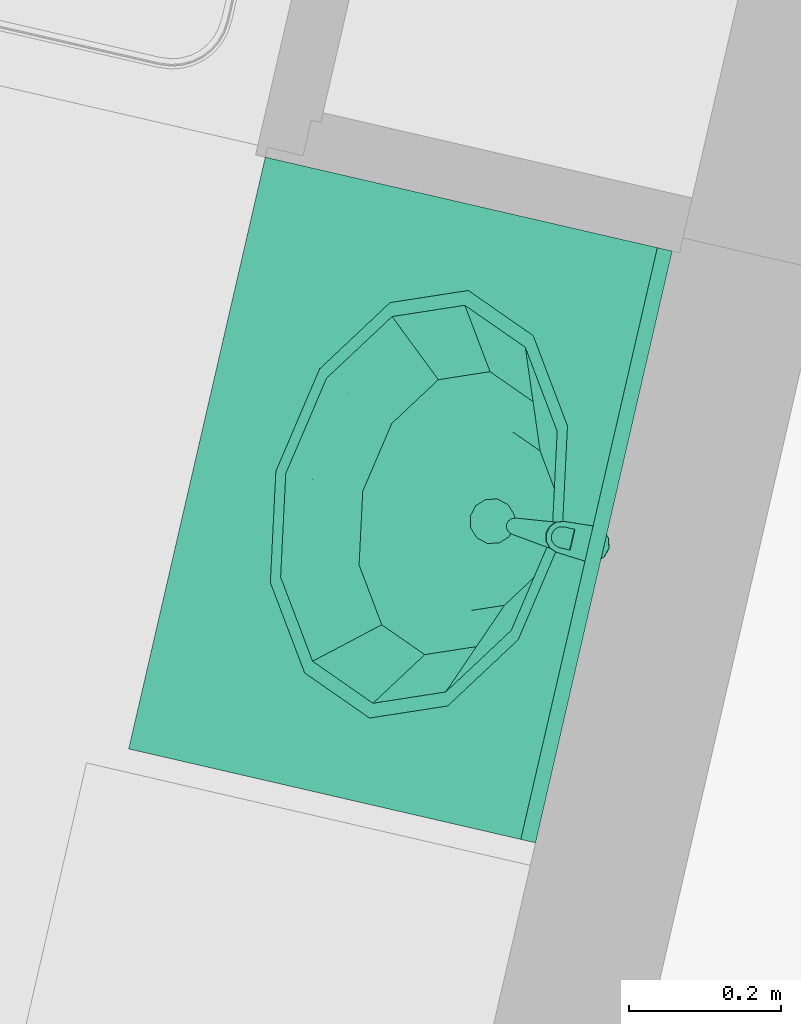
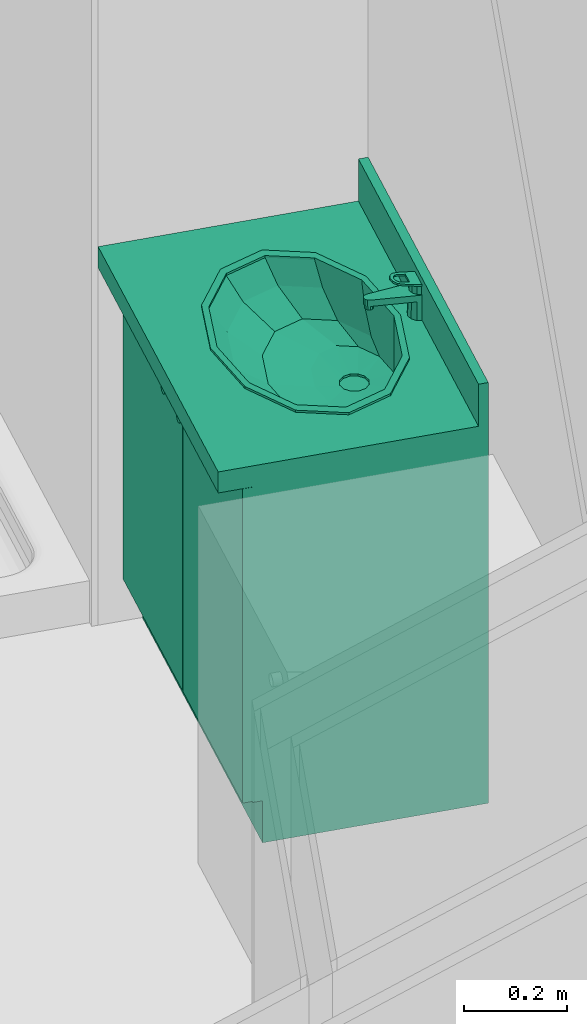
# One storey, part 46 of 62: 2 flow terminals.
"""IFC2X3 building model written with IfcOpenShell, lengths in metres."""

from ifc_helpers import new_model, entity, si_unit, converted_unit, derived_unit, money_unit, direction, frame, origin_with_axes, place, context, subcontext, project, spatial, open_shell, faceted_brep, surface_model, source, transform, mapped, type_object, element, save


model = new_model("IFC2X3")

# Units and contexts
model_context = context("Model", 3, precision=1e-05, world=origin_with_axes(), true_north=direction((0.0, 1.0)))
body_context = subcontext(model_context, "Body", "Model", "MODEL_VIEW")
ifc_project = project(units=[si_unit("LENGTHUNIT", "METRE"), si_unit("AREAUNIT", "SQUARE_METRE"), si_unit("VOLUMEUNIT", "CUBIC_METRE"), converted_unit("PLANEANGLEUNIT", "DEGREE", entity("IfcPlaneAngleMeasure", 0.0174532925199), si_unit("PLANEANGLEUNIT", "RADIAN"), dimensions=[0, 0, 0, 0, 0, 0, 0]), si_unit("SOLIDANGLEUNIT", "STERADIAN"), money_unit("EUR"), converted_unit("TIMEUNIT", "Year", entity("IfcTimeMeasure", 31556926.0), si_unit("TIMEUNIT", "SECOND"), dimensions=[0, 0, 1, 0, 0, 0, 0]), si_unit("MASSUNIT", "GRAM", prefix="KILO"), si_unit("THERMODYNAMICTEMPERATUREUNIT", "DEGREE_CELSIUS"), si_unit("LUMINOUSINTENSITYUNIT", "LUMEN"), si_unit("ENERGYUNIT", "JOULE", prefix="MEGA"), derived_unit("THERMALCONDUCTANCEUNIT", [(si_unit("POWERUNIT", "WATT"), 1), (si_unit("LENGTHUNIT", "METRE"), -1), (si_unit("THERMODYNAMICTEMPERATUREUNIT", "KELVIN"), -1)]), derived_unit("SPECIFICHEATCAPACITYUNIT", [(si_unit("ENERGYUNIT", "JOULE"), 1), (si_unit("MASSUNIT", "GRAM", prefix="KILO"), -1), (si_unit("THERMODYNAMICTEMPERATUREUNIT", "KELVIN"), -1)]), derived_unit("MASSDENSITYUNIT", [(si_unit("MASSUNIT", "GRAM", prefix="KILO"), 1), (si_unit("VOLUMEUNIT", "CUBIC_METRE"), -1)])], contexts=[model_context])

# Site, building, storey
site_placement = place(None, origin_with_axes())
site = spatial("IfcSite", under=ifc_project, at=site_placement, Name="Site", CompositionType="ELEMENT")
building_placement = place(site_placement, origin_with_axes())
building = spatial("IfcBuilding", under=site, at=building_placement, Name="Bâtiment", CompositionType="ELEMENT")
storey_placement = place(building_placement, frame((0.0, 0.0, 8.16), z_axis=(0.0, 0.0, 1.0), x_axis=(1.0, 0.0, 0.0)))
storey = spatial("IfcBuildingStorey", under=building, at=storey_placement, Name="R+3", CompositionType="ELEMENT", Elevation=8.16)

# Flow terminals
sanitary_terminal_type = type_object("IfcSanitaryTerminalType", Name="Lavabo sur meuble 23", PredefinedType="NOTDEFINED")
shared_shape = source(origin_with_axes(), body_context, "Body", "SurfaceModel", [
    faceted_brep([(0.0, 0.09, 0.0), (0.0, 0.09, 0.1), (-0.8, 0.09, 0.1), (-0.8, 0.09, 0.0), (0.0, 0.55, 0.0), (0.0, 0.55, 0.1), (-0.8, 0.55, 0.1), (-0.8, 0.55, 0.0)], [[[0, 1, 2, 3]], [[4, 5, 1, 0]], [[1, 5, 6, 2]], [[3, 2, 6, 7]], [[0, 3, 7, 4]], [[7, 6, 5, 4]]]),
    faceted_brep([(0.0, 0.07, 0.1), (0.0, 0.07, 0.12), (-0.02, 0.07, 0.12), (-0.02, 0.07, 0.1), (0.0, 0.55, 0.1), (0.0, 0.55, 0.12), (-0.02, 0.55, 0.12), (-0.78, 0.55, 0.12), (-0.8, 0.55, 0.12), (-0.8, 0.07, 0.12), (-0.78, 0.07, 0.12), (-0.78, 0.07, 0.1), (-0.8, 0.07, 0.1), (-0.8, 0.55, 0.1), (-0.78, 0.55, 0.1), (-0.02, 0.55, 0.1)], [[[0, 1, 2, 3]], [[4, 5, 1, 0]], [[1, 5, 6, 7, 8, 9, 10, 2]], [[3, 2, 10, 11]], [[0, 3, 11, 12, 13, 14, 15, 4]], [[15, 6, 5, 4]], [[14, 7, 6, 15]], [[13, 8, 7, 14]], [[12, 9, 8, 13]], [[11, 10, 9, 12]]]),
    faceted_brep([(0.0, 0.07, 0.12), (0.0, 0.07, 0.85), (-0.02, 0.07, 0.85), (-0.02, 0.07, 0.12), (0.0, 0.55, 0.12), (0.0, 0.55, 0.85), (-0.8, 0.55, 0.85), (-0.8, 0.07, 0.85), (-0.78, 0.07, 0.85), (-0.78, 0.53, 0.85), (-0.02, 0.53, 0.85), (-0.02, 0.53, 0.12), (-0.78, 0.53, 0.12), (-0.78, 0.07, 0.12), (-0.8, 0.07, 0.12), (-0.8, 0.55, 0.12)], [[[0, 1, 2, 3]], [[4, 5, 1, 0]], [[1, 5, 6, 7, 8, 9, 10, 2]], [[3, 2, 10, 11]], [[0, 3, 11, 12, 13, 14, 15, 4]], [[15, 6, 5, 4]], [[14, 7, 6, 15]], [[13, 8, 7, 14]], [[12, 9, 8, 13]], [[11, 10, 9, 12]]]),
    faceted_brep([(-0.78, 0.07, 0.323333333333), (-0.78, 0.07, 0.343333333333), (-0.78, 0.53, 0.343333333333), (-0.78, 0.53, 0.323333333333), (-0.02, 0.07, 0.323333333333), (-0.02, 0.07, 0.343333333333), (-0.02, 0.53, 0.343333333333), (-0.02, 0.53, 0.323333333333)], [[[0, 1, 2, 3]], [[4, 5, 1, 0]], [[1, 5, 6, 2]], [[3, 2, 6, 7]], [[0, 3, 7, 4]], [[7, 6, 5, 4]]]),
    faceted_brep([(-0.78, 0.07, 0.566666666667), (-0.78, 0.07, 0.586666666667), (-0.78, 0.53, 0.586666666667), (-0.78, 0.53, 0.566666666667), (-0.02, 0.07, 0.566666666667), (-0.02, 0.07, 0.586666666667), (-0.02, 0.53, 0.586666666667), (-0.02, 0.53, 0.566666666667)], [[[0, 1, 2, 3]], [[4, 5, 1, 0]], [[1, 5, 6, 2]], [[3, 2, 6, 7]], [[0, 3, 7, 4]], [[7, 6, 5, 4]]]),
    faceted_brep([(0.0, 0.55, 0.85), (0.0, 0.0, 0.85), (-0.8, 0.0, 0.85), (-0.8, 0.55, 0.85), (-0.535, 0.144115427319, 0.85), (-0.4, 0.12, 0.85), (-0.265, 0.144115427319, 0.85), (-0.166173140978, 0.21, 0.85), (-0.13, 0.3, 0.85), (-0.166173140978, 0.39, 0.85), (-0.265, 0.455884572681, 0.85), (-0.4, 0.48, 0.85), (-0.535, 0.455884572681, 0.85), (-0.633826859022, 0.39, 0.85), (-0.67, 0.3, 0.85), (-0.633826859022, 0.21, 0.85), (0.0, 0.55, 0.9), (0.0, 0.0, 0.9), (-0.8, 0.0, 0.9), (-0.8, 0.55, 0.9), (-0.4, 0.12, 0.9), (-0.535, 0.144115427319, 0.9), (-0.265, 0.144115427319, 0.9), (-0.166173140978, 0.21, 0.9), (-0.13, 0.3, 0.9), (-0.166173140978, 0.39, 0.9), (-0.265, 0.455884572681, 0.9), (-0.4, 0.48, 0.9), (-0.535, 0.455884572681, 0.9), (-0.633826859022, 0.39, 0.9), (-0.67, 0.3, 0.9), (-0.633826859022, 0.21, 0.9)], [[[0, 1, 2, 3], [4, 5, 6, 7, 8, 9, 10, 11, 12, 13, 14, 15]], [[1, 0, 16, 17]], [[2, 1, 17, 18]], [[3, 2, 18, 19]], [[0, 3, 19, 16]], [[20, 5, 4, 21]], [[22, 6, 5, 20]], [[23, 7, 6, 22]], [[24, 8, 7, 23]], [[25, 9, 8, 24]], [[26, 10, 9, 25]], [[27, 11, 10, 26]], [[28, 12, 11, 27]], [[29, 13, 12, 28]], [[30, 14, 13, 29]], [[31, 15, 14, 30]], [[21, 4, 15, 31]], [[18, 17, 16, 19], [28, 27, 26, 25, 24, 23, 22, 20, 21, 31, 30, 29]]]),
    faceted_brep([(0.0, 0.53, 0.9), (0.0, 0.53, 1.0), (-0.8, 0.53, 1.0), (-0.8, 0.53, 0.9), (0.0, 0.55, 0.9), (0.0, 0.55, 1.0), (-0.8, 0.55, 1.0), (-0.8, 0.55, 0.9)], [[[0, 1, 2, 3]], [[4, 5, 1, 0]], [[1, 5, 6, 2]], [[3, 2, 6, 7]], [[0, 3, 7, 4]], [[7, 6, 5, 4]]]),
    faceted_brep([(-0.689, 0.3, 0.905), (-0.650281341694, 0.396691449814, 0.905), (-0.650281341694, 0.396691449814, 0.9), (-0.689, 0.3, 0.9), (-0.650281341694, 0.203308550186, 0.905), (-0.5445, 0.132525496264, 0.905), (-0.4, 0.106617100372, 0.905), (-0.2555, 0.132525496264, 0.905), (-0.149718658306, 0.203308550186, 0.905), (-0.111, 0.3, 0.905), (-0.149718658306, 0.396691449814, 0.905), (-0.2555, 0.467474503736, 0.905), (-0.4, 0.493382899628, 0.905), (-0.5445, 0.467474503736, 0.905), (-0.669, 0.3, 0.905), (-0.632960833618, 0.39, 0.905), (-0.5345, 0.455884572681, 0.905), (-0.4, 0.48, 0.905), (-0.2655, 0.455884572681, 0.905), (-0.167039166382, 0.39, 0.905), (-0.131, 0.3, 0.905), (-0.167039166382, 0.21, 0.905), (-0.2655, 0.144115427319, 0.905), (-0.4, 0.12, 0.905), (-0.5345, 0.144115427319, 0.905), (-0.632960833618, 0.21, 0.905), (-0.5445, 0.467474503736, 0.9), (-0.4, 0.493382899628, 0.9), (-0.2555, 0.467474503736, 0.9), (-0.149718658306, 0.396691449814, 0.9), (-0.111, 0.3, 0.9), (-0.149718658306, 0.203308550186, 0.9), (-0.2555, 0.132525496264, 0.9), (-0.4, 0.106617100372, 0.9), (-0.5445, 0.132525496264, 0.9), (-0.650281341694, 0.203308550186, 0.9), (-0.669, 0.3, 0.9), (-0.632960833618, 0.21, 0.9), (-0.5345, 0.144115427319, 0.9), (-0.4, 0.12, 0.9), (-0.2655, 0.144115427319, 0.9), (-0.167039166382, 0.21, 0.9), (-0.131, 0.3, 0.9), (-0.167039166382, 0.39, 0.9), (-0.2655, 0.455884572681, 0.9), (-0.4, 0.48, 0.9), (-0.5345, 0.455884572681, 0.9), (-0.632960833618, 0.39, 0.9)], [[[0, 1, 2, 3]], [[0, 4, 5, 6, 7, 8, 9, 10, 11, 12, 13, 1], [14, 15, 16, 17, 18, 19, 20, 21, 22, 23, 24, 25]], [[1, 13, 26, 2]], [[3, 2, 26, 27, 28, 29, 30, 31, 32, 33, 34, 35], [36, 37, 38, 39, 40, 41, 42, 43, 44, 45, 46, 47]], [[4, 0, 3, 35]], [[5, 4, 35, 34]], [[6, 5, 34, 33]], [[7, 6, 33, 32]], [[8, 7, 32, 31]], [[9, 8, 31, 30]], [[10, 9, 30, 29]], [[11, 10, 29, 28]], [[12, 11, 28, 27]], [[13, 12, 27, 26]], [[15, 14, 36, 47]], [[16, 15, 47, 46]], [[17, 16, 46, 45]], [[18, 17, 45, 44]], [[19, 18, 44, 43]], [[20, 19, 43, 42]], [[21, 20, 42, 41]], [[22, 21, 41, 40]], [[23, 22, 40, 39]], [[24, 23, 39, 38]], [[25, 24, 38, 37]], [[14, 25, 37, 36]]]),
    surface_model("IfcShellBasedSurfaceModel", [(-0.4, 0.48, 0.9), (-0.5345, 0.455884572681, 0.9), (-0.52105, 0.458296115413, 0.848), (-0.4, 0.48, 0.848), (-0.632960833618, 0.39, 0.9), (-0.609664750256, 0.399, 0.848), (-0.2655, 0.455884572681, 0.9), (-0.27895, 0.458296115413, 0.848), (-0.669, 0.3, 0.9), (-0.6421, 0.318, 0.848), (-0.167039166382, 0.39, 0.9), (-0.190335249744, 0.399, 0.848), (-0.632960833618, 0.21, 0.9), (-0.609664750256, 0.237, 0.848), (-0.131, 0.3, 0.9), (-0.1579, 0.318, 0.848), (-0.5345, 0.144115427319, 0.9), (-0.52105, 0.177703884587, 0.848), (-0.167039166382, 0.21, 0.9), (-0.190335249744, 0.237, 0.848), (-0.4, 0.12, 0.9), (-0.4, 0.156, 0.848), (-0.2655, 0.144115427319, 0.9), (-0.27895, 0.177703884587, 0.848)], [open_shell([[[0, 1, 2, 3]], [[1, 4, 5, 2]], [[6, 0, 3, 7]], [[4, 8, 9, 5]], [[10, 6, 7, 11]], [[8, 12, 13, 9]], [[14, 10, 11, 15]], [[12, 16, 17, 13]], [[18, 14, 15, 19]], [[16, 20, 21, 17]], [[22, 18, 19, 23]], [[20, 22, 23, 21]]])]),
    surface_model("IfcShellBasedSurfaceModel", [(-0.4, 0.48, 0.848), (-0.52105, 0.458296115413, 0.848), (-0.4956295, 0.462853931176, 0.796), (-0.4, 0.48, 0.796), (-0.609664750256, 0.399, 0.848), (-0.565635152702, 0.41601, 0.796), (-0.27895, 0.458296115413, 0.848), (-0.3043705, 0.462853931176, 0.796), (-0.6421, 0.318, 0.848), (-0.591259, 0.35202, 0.796), (-0.190335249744, 0.399, 0.848), (-0.234364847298, 0.41601, 0.796), (-0.609664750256, 0.237, 0.848), (-0.565635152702, 0.28803, 0.796), (-0.1579, 0.318, 0.848), (-0.208741, 0.35202, 0.796), (-0.52105, 0.177703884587, 0.848), (-0.4956295, 0.241186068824, 0.796), (-0.190335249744, 0.237, 0.848), (-0.234364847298, 0.28803, 0.796), (-0.4, 0.156, 0.848), (-0.4, 0.22404, 0.796), (-0.27895, 0.177703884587, 0.848), (-0.3043705, 0.241186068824, 0.796)], [open_shell([[[0, 1, 2, 3]], [[1, 4, 5, 2]], [[6, 0, 3, 7]], [[4, 8, 9, 5]], [[10, 6, 7, 11]], [[8, 12, 13, 9]], [[14, 10, 11, 15]], [[12, 16, 17, 13]], [[18, 14, 15, 19]], [[16, 20, 21, 17]], [[22, 18, 19, 23]], [[20, 22, 23, 21]]])]),
    surface_model("IfcShellBasedSurfaceModel", [(-0.4, 0.48, 0.796), (-0.4956295, 0.462853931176, 0.796), (-0.460246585, 0.469197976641, 0.77), (-0.4, 0.48, 0.77), (-0.565635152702, 0.41601, 0.796), (-0.504350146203, 0.4396863, 0.77), (-0.3043705, 0.462853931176, 0.796), (-0.339753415, 0.469197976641, 0.77), (-0.591259, 0.35202, 0.796), (-0.52049317, 0.3993726, 0.77), (-0.234364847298, 0.41601, 0.796), (-0.295649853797, 0.4396863, 0.77), (-0.565635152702, 0.28803, 0.796), (-0.504350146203, 0.3590589, 0.77), (-0.208741, 0.35202, 0.796), (-0.27950683, 0.3993726, 0.77), (-0.4956295, 0.241186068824, 0.796), (-0.460246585, 0.329547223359, 0.77), (-0.234364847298, 0.28803, 0.796), (-0.295649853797, 0.3590589, 0.77), (-0.4, 0.22404, 0.796), (-0.4, 0.3187452, 0.77), (-0.3043705, 0.241186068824, 0.796), (-0.339753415, 0.329547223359, 0.77)], [open_shell([[[0, 1, 2, 3]], [[1, 4, 5, 2]], [[6, 0, 3, 7]], [[4, 8, 9, 5]], [[10, 6, 7, 11]], [[8, 12, 13, 9]], [[14, 10, 11, 15]], [[12, 16, 17, 13]], [[18, 14, 15, 19]], [[16, 20, 21, 17]], [[22, 18, 19, 23]], [[20, 22, 23, 21]]])]),
    surface_model("IfcShellBasedSurfaceModel", [(-0.4, 0.48, 0.77), (-0.460246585, 0.469197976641, 0.77), (-0.415, 0.425353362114, 0.763), (-0.425980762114, 0.4143726, 0.763), (-0.4, 0.4293726, 0.763), (-0.504350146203, 0.4396863, 0.77), (-0.339753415, 0.469197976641, 0.77), (-0.43, 0.3993726, 0.763), (-0.385, 0.425353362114, 0.763), (-0.52049317, 0.3993726, 0.77), (-0.295649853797, 0.4396863, 0.77), (-0.425980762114, 0.3843726, 0.763), (-0.374019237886, 0.4143726, 0.763), (-0.504350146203, 0.3590589, 0.77), (-0.27950683, 0.3993726, 0.77), (-0.415, 0.373391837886, 0.763), (-0.37, 0.3993726, 0.763), (-0.460246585, 0.329547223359, 0.77), (-0.295649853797, 0.3590589, 0.77), (-0.4, 0.3693726, 0.763), (-0.374019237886, 0.3843726, 0.763), (-0.4, 0.3187452, 0.77), (-0.339753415, 0.329547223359, 0.77), (-0.385, 0.373391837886, 0.763)], [open_shell([[[0, 1, 2]], [[1, 3, 2]], [[0, 2, 4]], [[1, 5, 3]], [[6, 0, 4]], [[5, 7, 3]], [[6, 4, 8]], [[5, 9, 7]], [[10, 6, 8]], [[9, 11, 7]], [[10, 8, 12]], [[9, 13, 11]], [[14, 10, 12]], [[13, 15, 11]], [[14, 12, 16]], [[13, 17, 15]], [[18, 14, 16]], [[17, 19, 15]], [[18, 16, 20]], [[17, 21, 19]], [[22, 18, 20]], [[21, 23, 19]], [[22, 20, 23]], [[21, 22, 23]]])]),
    surface_model("IfcShellBasedSurfaceModel", [(-0.43, 0.3993726, 0.763), (-0.425980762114, 0.4143726, 0.763), (-0.425980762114, 0.4143726, 0.758), (-0.43, 0.3993726, 0.758), (-0.415, 0.425353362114, 0.763), (-0.415, 0.425353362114, 0.758), (-0.4, 0.4293726, 0.758), (-0.385, 0.425353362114, 0.758), (-0.374019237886, 0.4143726, 0.758), (-0.37, 0.3993726, 0.758), (-0.374019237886, 0.3843726, 0.758), (-0.385, 0.373391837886, 0.758), (-0.4, 0.3693726, 0.758), (-0.415, 0.373391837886, 0.758), (-0.425980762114, 0.3843726, 0.758), (-0.425980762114, 0.3843726, 0.763), (-0.4, 0.4293726, 0.763), (-0.385, 0.425353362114, 0.763), (-0.374019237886, 0.4143726, 0.763), (-0.37, 0.3993726, 0.763), (-0.374019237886, 0.3843726, 0.763), (-0.385, 0.373391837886, 0.763), (-0.4, 0.3693726, 0.763), (-0.415, 0.373391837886, 0.763)], [open_shell([[[0, 1, 2, 3]], [[1, 4, 5, 2]], [[3, 2, 5, 6, 7, 8, 9, 10, 11, 12, 13, 14]], [[15, 0, 3, 14]], [[4, 16, 6, 5]], [[16, 17, 7, 6]], [[17, 18, 8, 7]], [[18, 19, 9, 8]], [[19, 20, 10, 9]], [[20, 21, 11, 10]], [[21, 22, 12, 11]], [[22, 23, 13, 12]], [[23, 15, 14, 13]]])]),
    faceted_brep([(-0.4125, 0.554150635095, 0.9), (-0.410587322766, 0.550837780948, 0.976507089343), (-0.4, 0.553701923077, 0.975961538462), (-0.4, 0.5575, 0.9), (-0.421650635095, 0.545, 0.9), (-0.418273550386, 0.543050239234, 0.977990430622), (-0.421, 0.5325, 0.98), (-0.418100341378, 0.522049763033, 0.981990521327), (-0.410414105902, 0.514462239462, 0.983435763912), (-0.4, 0.511698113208, 0.983962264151), (-0.389585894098, 0.514462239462, 0.983435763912), (-0.381899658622, 0.522049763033, 0.981990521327), (-0.379, 0.5325, 0.98), (-0.381726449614, 0.543050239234, 0.977990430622), (-0.389412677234, 0.550837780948, 0.976507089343), (-0.3875, 0.554150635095, 0.9), (-0.378349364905, 0.545, 0.9), (-0.375, 0.5325, 0.9), (-0.378349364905, 0.52, 0.9), (-0.3875, 0.510849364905, 0.9), (-0.4, 0.5075, 0.9), (-0.4125, 0.510849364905, 0.9), (-0.421650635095, 0.52, 0.9), (-0.425, 0.5325, 0.9)], [[[0, 1, 2, 3]], [[4, 5, 1, 0]], [[1, 5, 6, 7, 8, 9, 10, 11, 12, 13, 14, 2]], [[3, 2, 14, 15]], [[0, 3, 15, 16, 17, 18, 19, 20, 21, 22, 23, 4]], [[23, 6, 5, 4]], [[22, 7, 6, 23]], [[21, 8, 7, 22]], [[20, 9, 8, 21]], [[19, 10, 9, 20]], [[18, 11, 10, 19]], [[17, 12, 11, 18]], [[16, 13, 12, 17]], [[15, 14, 13, 16]]]),
    faceted_brep([(-0.409, 0.4295, 0.935), (-0.409, 0.4295, 0.945), (-0.407794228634, 0.434, 0.945), (-0.407794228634, 0.434, 0.935), (-0.407794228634, 0.425, 0.935), (-0.407794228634, 0.425, 0.945), (-0.4045, 0.421705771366, 0.945), (-0.4, 0.4205, 0.945), (-0.3955, 0.421705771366, 0.945), (-0.392205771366, 0.425, 0.945), (-0.391, 0.4295, 0.945), (-0.392205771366, 0.434, 0.945), (-0.3955, 0.437294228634, 0.945), (-0.4, 0.4385, 0.945), (-0.4045, 0.437294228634, 0.945), (-0.4045, 0.437294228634, 0.935), (-0.4, 0.4385, 0.935), (-0.3955, 0.437294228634, 0.935), (-0.392205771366, 0.434, 0.935), (-0.391, 0.4295, 0.935), (-0.392205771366, 0.425, 0.935), (-0.3955, 0.421705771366, 0.935), (-0.4, 0.4205, 0.935), (-0.4045, 0.421705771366, 0.935)], [[[0, 1, 2, 3]], [[4, 5, 1, 0]], [[1, 5, 6, 7, 8, 9, 10, 11, 12, 13, 14, 2]], [[3, 2, 14, 15]], [[0, 3, 15, 16, 17, 18, 19, 20, 21, 22, 23, 4]], [[23, 6, 5, 4]], [[22, 7, 6, 23]], [[21, 8, 7, 22]], [[20, 9, 8, 21]], [[19, 10, 9, 20]], [[18, 11, 10, 19]], [[17, 12, 11, 18]], [[16, 13, 12, 17]], [[15, 14, 13, 16]]]),
    faceted_brep([(-0.387128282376, 0.552756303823, 0.96), (-0.40000000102, 0.556499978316, 0.96), (-0.412871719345, 0.552756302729, 0.96), (-0.421727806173, 0.542693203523, 0.96), (-0.423805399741, 0.529450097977, 0.96), (-0.410912, 0.4281117, 0.96), (-0.409028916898, 0.423216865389, 0.96), (-0.405093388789, 0.419750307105, 0.96), (-0.400000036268, 0.41850003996, 0.96), (-0.394906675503, 0.419750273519, 0.96), (-0.390971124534, 0.423216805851, 0.96), (-0.389088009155, 0.428111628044, 0.96), (-0.3761946, 0.5294501, 0.96), (-0.378272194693, 0.54269320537, 0.96), (-0.411, 0.551552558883, 0.96), (-0.4, 0.5545, 0.96), (-0.389, 0.551552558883, 0.96), (-0.380947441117, 0.5435, 0.96), (-0.378, 0.5325, 0.96), (-0.380947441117, 0.5215, 0.96), (-0.389, 0.513447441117, 0.96), (-0.4, 0.5105, 0.96), (-0.411, 0.513447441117, 0.96), (-0.419052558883, 0.5215, 0.96), (-0.422, 0.5325, 0.96), (-0.419052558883, 0.5435, 0.96), (-0.387128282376, 0.552756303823, 0.945), (-0.40000000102, 0.556499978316, 0.945), (-0.412871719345, 0.552756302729, 0.945), (-0.421727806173, 0.542693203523, 0.945), (-0.423805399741, 0.529450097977, 0.945), (-0.410912, 0.4281117, 0.945), (-0.409028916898, 0.423216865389, 0.945), (-0.405093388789, 0.419750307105, 0.945), (-0.400000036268, 0.41850003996, 0.945), (-0.394906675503, 0.419750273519, 0.945), (-0.390971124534, 0.423216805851, 0.945), (-0.389088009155, 0.428111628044, 0.945), (-0.3761946, 0.5294501, 0.945), (-0.378272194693, 0.54269320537, 0.945), (-0.4, 0.55525, 0.945), (-0.411375, 0.552202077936, 0.945), (-0.388625, 0.552202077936, 0.945), (-0.380297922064, 0.543875, 0.945), (-0.37725, 0.5325, 0.945), (-0.380297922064, 0.521125, 0.945), (-0.388625, 0.512797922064, 0.945), (-0.4, 0.50975, 0.945), (-0.411375, 0.512797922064, 0.945), (-0.419702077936, 0.521125, 0.945), (-0.42275, 0.5325, 0.945), (-0.419702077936, 0.543875, 0.945)], [[[0, 1, 2, 3, 4, 5, 6, 7, 8, 9, 10, 11, 12, 13], [14, 15, 16, 17, 18, 19, 20, 21, 22, 23, 24, 25]], [[26, 27, 1, 0]], [[27, 28, 2, 1]], [[28, 29, 3, 2]], [[29, 30, 4, 3]], [[30, 31, 5, 4]], [[31, 32, 6, 5]], [[32, 33, 7, 6]], [[33, 34, 8, 7]], [[34, 35, 9, 8]], [[35, 36, 10, 9]], [[36, 37, 11, 10]], [[37, 38, 12, 11]], [[38, 39, 13, 12]], [[39, 26, 0, 13]], [[40, 15, 14, 41]], [[42, 16, 15, 40]], [[16, 42, 43, 17]], [[17, 43, 44, 18]], [[18, 44, 45, 19]], [[19, 45, 46, 20]], [[20, 46, 47, 21]], [[48, 22, 21, 47]], [[49, 23, 22, 48]], [[50, 24, 23, 49]], [[51, 25, 24, 50]], [[41, 14, 25, 51]], [[34, 33, 32, 31, 30, 29, 28, 27, 26, 39, 38, 37, 36, 35], [48, 47, 46, 45, 44, 43, 42, 40, 41, 51, 50, 49]]]),
    faceted_brep([(-0.423893, 0.53080743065, 0.980322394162), (-0.423893, 0.531555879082, 0.984251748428), (-0.421296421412, 0.544023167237, 0.981877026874), (-0.421296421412, 0.543274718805, 0.977947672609), (-0.420945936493, 0.490663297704, 0.987968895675), (-0.420945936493, 0.491411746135, 0.991898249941), (-0.417663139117, 0.48173408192, 0.993741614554), (-0.410061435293, 0.47478470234, 0.995065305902), (-0.399999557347, 0.472262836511, 0.995545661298), (-0.389937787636, 0.474785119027, 0.995065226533), (-0.382336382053, 0.481734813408, 0.993741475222), (-0.379054, 0.491412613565, 0.991898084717), (-0.376106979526, 0.531556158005, 0.984251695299), (-0.378703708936, 0.544023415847, 0.98187697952), (-0.38752831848, 0.553339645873, 0.980102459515), (-0.400000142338, 0.556780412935, 0.979447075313), (-0.41247192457, 0.553339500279, 0.980102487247), (-0.414, 0.507707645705, 0.988794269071), (-0.386, 0.507707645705, 0.988794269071), (-0.386, 0.492892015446, 0.991616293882), (-0.387875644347, 0.486015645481, 0.992926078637), (-0.393, 0.480981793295, 0.993884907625), (-0.4, 0.479139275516, 0.994235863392), (-0.407, 0.480981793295, 0.993884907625), (-0.412124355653, 0.486015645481, 0.992926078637), (-0.414, 0.492892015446, 0.991616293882), (-0.41247192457, 0.552591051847, 0.976173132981), (-0.400000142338, 0.556031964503, 0.975517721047), (-0.38752831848, 0.552591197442, 0.976173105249), (-0.378703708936, 0.543274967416, 0.977947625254), (-0.376106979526, 0.530807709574, 0.980322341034), (-0.379054, 0.490664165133, 0.987968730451), (-0.382336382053, 0.480986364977, 0.989812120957), (-0.389937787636, 0.474036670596, 0.991135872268), (-0.399999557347, 0.47151438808, 0.991616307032), (-0.410061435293, 0.474036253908, 0.991135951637), (-0.417663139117, 0.480985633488, 0.989812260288), (-0.414, 0.506959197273, 0.984864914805), (-0.414, 0.492143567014, 0.987686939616), (-0.412124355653, 0.485267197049, 0.988996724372), (-0.407, 0.480233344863, 0.989955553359), (-0.4, 0.478390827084, 0.990306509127), (-0.393, 0.480233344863, 0.989955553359), (-0.387875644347, 0.485267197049, 0.988996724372), (-0.386, 0.492143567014, 0.987686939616), (-0.386, 0.506959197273, 0.984864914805)], [[[0, 1, 2, 3]], [[4, 5, 1, 0]], [[1, 5, 6, 7, 8, 9, 10, 11, 12, 13, 14, 15, 16, 2], [17, 18, 19, 20, 21, 22, 23, 24, 25]], [[3, 2, 16, 26]], [[0, 3, 26, 27, 28, 29, 30, 31, 32, 33, 34, 35, 36, 4], [37, 38, 39, 40, 41, 42, 43, 44, 45]], [[36, 6, 5, 4]], [[35, 7, 6, 36]], [[34, 8, 7, 35]], [[33, 9, 8, 34]], [[32, 10, 9, 33]], [[31, 11, 10, 32]], [[30, 12, 11, 31]], [[29, 13, 12, 30]], [[28, 14, 13, 29]], [[27, 15, 14, 28]], [[26, 16, 15, 27]], [[45, 18, 17, 37]], [[44, 19, 18, 45]], [[43, 20, 19, 44]], [[42, 21, 20, 43]], [[41, 22, 21, 42]], [[40, 23, 22, 41]], [[39, 24, 23, 40]], [[38, 25, 24, 39]], [[37, 17, 25, 38]]]),
    faceted_brep([(-0.0015, 0.07, 0.1015), (-0.0015, 0.05, 0.1015), (-0.3985, 0.05, 0.1015), (-0.3985, 0.07, 0.1015), (-0.0015, 0.07, 0.8485), (-0.0015, 0.05, 0.8485), (-0.3985, 0.05, 0.8485), (-0.3985, 0.07, 0.8485)], [[[0, 1, 2, 3]], [[4, 5, 1, 0]], [[1, 5, 6, 2]], [[3, 2, 6, 7]], [[0, 3, 7, 4]], [[7, 6, 5, 4]]]),
    faceted_brep([(-0.358892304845, 0.05, 0.7855), (-0.3605, 0.05, 0.7915), (-0.358892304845, 0.05, 0.7975), (-0.3545, 0.05, 0.801892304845), (-0.3485, 0.05, 0.8035), (-0.3425, 0.05, 0.801892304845), (-0.338107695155, 0.05, 0.7975), (-0.3365, 0.05, 0.7915), (-0.338107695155, 0.05, 0.7855), (-0.3425, 0.05, 0.781107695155), (-0.3485, 0.05, 0.7795), (-0.3545, 0.05, 0.781107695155), (-0.358892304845, 0.025, 0.7855), (-0.3605, 0.025, 0.7915), (-0.358892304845, 0.025, 0.7975), (-0.3545, 0.025, 0.801892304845), (-0.3485, 0.025, 0.8035), (-0.3425, 0.025, 0.801892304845), (-0.338107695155, 0.025, 0.7975), (-0.3365, 0.025, 0.7915), (-0.338107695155, 0.025, 0.7855), (-0.3425, 0.025, 0.781107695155), (-0.3485, 0.025, 0.7795), (-0.3545, 0.025, 0.781107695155)], [[[0, 1, 2, 3, 4, 5, 6, 7, 8, 9, 10, 11]], [[0, 12, 13, 1]], [[1, 13, 14, 2]], [[2, 14, 15, 3]], [[3, 15, 16, 4]], [[4, 16, 17, 5]], [[5, 17, 18, 6]], [[6, 18, 19, 7]], [[7, 19, 20, 8]], [[8, 20, 21, 9]], [[9, 21, 22, 10]], [[10, 22, 23, 11]], [[11, 23, 12, 0]], [[12, 23, 22, 21, 20, 19, 18, 17, 16, 15, 14, 13]]]),
    faceted_brep([(-0.7985, 0.07, 0.1015), (-0.4015, 0.07, 0.1015), (-0.4015, 0.05, 0.1015), (-0.7985, 0.05, 0.1015), (-0.7985, 0.07, 0.8485), (-0.4015, 0.07, 0.8485), (-0.4015, 0.05, 0.8485), (-0.7985, 0.05, 0.8485)], [[[0, 1, 2, 3]], [[0, 4, 5, 1]], [[1, 5, 6, 2]], [[3, 2, 6, 7]], [[4, 0, 3, 7]], [[5, 4, 7, 6]]]),
    faceted_brep([(-0.441107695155, 0.05, 0.7855), (-0.4455, 0.05, 0.781107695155), (-0.4515, 0.05, 0.7795), (-0.4575, 0.05, 0.781107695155), (-0.461892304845, 0.05, 0.7855), (-0.4635, 0.05, 0.7915), (-0.461892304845, 0.05, 0.7975), (-0.4575, 0.05, 0.801892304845), (-0.4515, 0.05, 0.8035), (-0.4455, 0.05, 0.801892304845), (-0.441107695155, 0.05, 0.7975), (-0.4395, 0.05, 0.7915), (-0.441107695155, 0.025, 0.7855), (-0.4455, 0.025, 0.781107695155), (-0.4515, 0.025, 0.7795), (-0.4575, 0.025, 0.781107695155), (-0.461892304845, 0.025, 0.7855), (-0.4635, 0.025, 0.7915), (-0.461892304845, 0.025, 0.7975), (-0.4575, 0.025, 0.801892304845), (-0.4515, 0.025, 0.8035), (-0.4455, 0.025, 0.801892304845), (-0.441107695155, 0.025, 0.7975), (-0.4395, 0.025, 0.7915)], [[[0, 1, 2, 3, 4, 5, 6, 7, 8, 9, 10, 11]], [[1, 0, 12, 13]], [[2, 1, 13, 14]], [[3, 2, 14, 15]], [[4, 3, 15, 16]], [[5, 4, 16, 17]], [[6, 5, 17, 18]], [[7, 6, 18, 19]], [[8, 7, 19, 20]], [[9, 8, 20, 21]], [[10, 9, 21, 22]], [[11, 10, 22, 23]], [[0, 11, 23, 12]], [[12, 23, 22, 21, 20, 19, 18, 17, 16, 15, 14, 13]]]),
])
for number, where, z_axis, x_axis, name in (
    (1, (-11.3098303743, 0.742763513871, 0.0), (0.0, 0.0, 1.0), (-0.224876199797, -0.974387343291, 0.0), "MOB-002"),
    (2, (-11.3098303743, 0.742763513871, 0.0), (0.0, 0.0, 1.0), (-0.224876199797, -0.974387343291, 0.0), "MOB-002"),
):
    element("IfcFlowTerminal", number, at=place(storey_placement, frame(where, z_axis=z_axis, x_axis=x_axis)), inside=storey, type_object=sanitary_terminal_type, Name=name, ObjectType="SANITARY_TERMINAL", context=body_context, shape_type="MappedRepresentation", body=[
        mapped(shared_shape, transform((0.0, 0.0, 0.0))),
    ])

save(model, "model.ifc")
